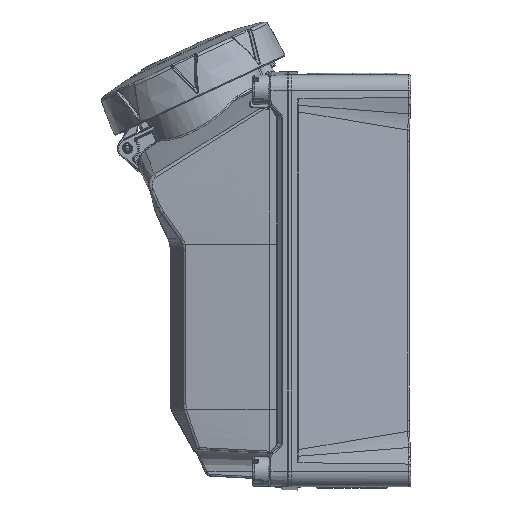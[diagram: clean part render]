
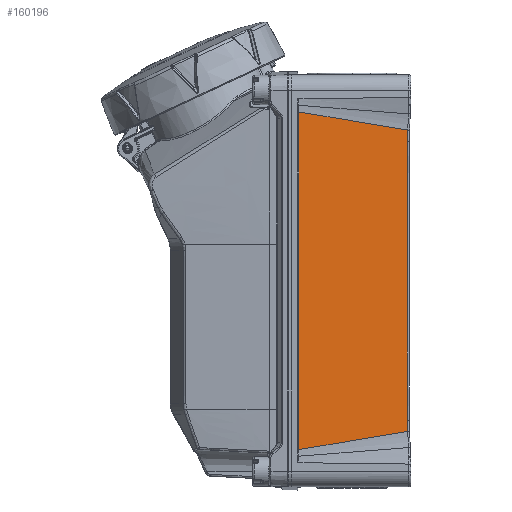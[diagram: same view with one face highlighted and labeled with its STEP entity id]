
A CAD part, left-side view. The second image highlights one B-rep face of the part: STEP entity #160196.
In plain terms, the highlighted free-form (B-spline) face has degree [5, 5] with [6, 6] control points.
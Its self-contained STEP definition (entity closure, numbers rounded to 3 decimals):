
#46207=CARTESIAN_POINT('',(-54.921,0.638,
-82.079));
#46208=CARTESIAN_POINT('',(-55.229,5.784,
-82.813));
#46209=CARTESIAN_POINT('',(-55.815,15.586,
-84.24));
#46210=CARTESIAN_POINT('',(-56.603,28.769,
-86.267));
#46211=CARTESIAN_POINT('',(-57.308,40.559,
-88.217));
#46212=CARTESIAN_POINT('',(-57.933,51.017,
-90.124));
#46213=CARTESIAN_POINT('',(-58.301,57.168,
-91.399));
#46214=CARTESIAN_POINT('',(-58.472,60.031,
-92.044));
#46219=DIRECTION('',(0.,0.,1.));
#46220=VECTOR('',#46219,184.088);
#46221=CARTESIAN_POINT('',(-58.472,60.031,
-92.044));
#46222=LINE('9601',#46221,#46220);
#46226=CARTESIAN_POINT('',(-58.472,60.031,
92.044));
#46227=CARTESIAN_POINT('',(-58.24,56.145,
91.169));
#46228=CARTESIAN_POINT('',(-57.743,47.836,
89.496));
#46229=CARTESIAN_POINT('',(-56.904,33.805,
87.066));
#46230=CARTESIAN_POINT('',(-55.97,18.186,
84.621));
#46231=CARTESIAN_POINT('',(-55.282,6.668,
82.939));
#46232=CARTESIAN_POINT('',(-54.921,0.638,
82.079));
#46237=CARTESIAN_POINT('',(-54.921,0.638,
82.079));
#46238=CARTESIAN_POINT('',(-54.923,0.671,
81.406));
#46239=CARTESIAN_POINT('',(-54.927,0.739,
80.061));
#46240=CARTESIAN_POINT('',(-54.933,0.839,
78.043));
#46241=CARTESIAN_POINT('',(-54.937,0.907,
76.698));
#46242=CARTESIAN_POINT('',(-54.939,0.94,
76.025));
#46247=DIRECTION('',(0.,0.,1.));
#46248=VECTOR('',#46247,152.05);
#46249=CARTESIAN_POINT('',(-54.939,0.94,
-76.025));
#46250=LINE('9659',#46249,#46248);
#46254=CARTESIAN_POINT('',(-54.939,0.94,
-76.025));
#46255=CARTESIAN_POINT('',(-54.937,0.907,
-76.698));
#46256=CARTESIAN_POINT('',(-54.933,0.839,
-78.043));
#46257=CARTESIAN_POINT('',(-54.927,0.739,
-80.061));
#46258=CARTESIAN_POINT('',(-54.923,0.671,
-81.406));
#46259=CARTESIAN_POINT('',(-54.921,0.638,
-82.079));
#83694=VERTEX_POINT('',#46207);
#83695=VERTEX_POINT('',#46214);
#83698=VERTEX_POINT('',#46226);
#83699=VERTEX_POINT('',#46232);
#84503=VERTEX_POINT('',#46242);
#84509=CARTESIAN_POINT('',(-54.939,0.94,
-76.025));
#84510=VERTEX_POINT('',#84509);
#160146=CARTESIAN_POINT('',(-54.883,0.,-86.5));
#160147=CARTESIAN_POINT('',(-55.606,12.1,-87.98));
#160148=CARTESIAN_POINT('',(-56.33,24.2,-89.46));
#160149=CARTESIAN_POINT('',(-57.053,36.3,-90.94));
#160150=CARTESIAN_POINT('',(-57.777,48.4,-92.42));
#160151=CARTESIAN_POINT('',(-58.5,60.5,-93.9));
#160152=CARTESIAN_POINT('',(-54.883,0.,-51.9));
#160153=CARTESIAN_POINT('',(-55.606,12.1,-52.788));
#160154=CARTESIAN_POINT('',(-56.33,24.2,-53.676));
#160155=CARTESIAN_POINT('',(-57.053,36.3,-54.564));
#160156=CARTESIAN_POINT('',(-57.777,48.4,-55.452));
#160157=CARTESIAN_POINT('',(-58.5,60.5,-56.34));
#160158=CARTESIAN_POINT('',(-54.883,0.,-17.3));
#160159=CARTESIAN_POINT('',(-55.606,12.1,-17.596));
#160160=CARTESIAN_POINT('',(-56.33,24.2,-17.892));
#160161=CARTESIAN_POINT('',(-57.053,36.3,-18.188));
#160162=CARTESIAN_POINT('',(-57.777,48.4,-18.484));
#160163=CARTESIAN_POINT('',(-58.5,60.5,-18.78));
#160164=CARTESIAN_POINT('',(-54.883,0.,17.3));
#160165=CARTESIAN_POINT('',(-55.606,12.1,17.596));
#160166=CARTESIAN_POINT('',(-56.33,24.2,17.892));
#160167=CARTESIAN_POINT('',(-57.053,36.3,18.188));
#160168=CARTESIAN_POINT('',(-57.777,48.4,18.484));
#160169=CARTESIAN_POINT('',(-58.5,60.5,18.78));
#160170=CARTESIAN_POINT('',(-54.883,0.,51.9));
#160171=CARTESIAN_POINT('',(-55.606,12.1,52.788));
#160172=CARTESIAN_POINT('',(-56.33,24.2,53.676));
#160173=CARTESIAN_POINT('',(-57.053,36.3,54.564));
#160174=CARTESIAN_POINT('',(-57.777,48.4,55.452));
#160175=CARTESIAN_POINT('',(-58.5,60.5,56.34));
#160176=CARTESIAN_POINT('',(-54.883,0.,86.5));
#160177=CARTESIAN_POINT('',(-55.606,12.1,87.98));
#160178=CARTESIAN_POINT('',(-56.33,24.2,89.46));
#160179=CARTESIAN_POINT('',(-57.053,36.3,90.94));
#160180=CARTESIAN_POINT('',(-57.777,48.4,92.42));
#160181=CARTESIAN_POINT('',(-58.5,60.5,93.9));
#160182=B_SPLINE_SURFACE_WITH_KNOTS('3570',5,5,((#160146,#160147,#160148,
#160149,#160150,#160151),(#160152,#160153,#160154,#160155,#160156,#160157),(
#160158,#160159,#160160,#160161,#160162,#160163),(#160164,#160165,#160166,
#160167,#160168,#160169),(#160170,#160171,#160172,#160173,#160174,#160175),(
#160176,#160177,#160178,#160179,#160180,#160181)),.UNSPECIFIED.,.F.,.F.,.F.,(6,
6),(6,6),(0.,1.),(0.,1.),.UNSPECIFIED.);
#160183=ORIENTED_EDGE('8641',*,*,#160129,.T.);
#160185=ORIENTED_EDGE('9601',*,*,#160184,.T.);
#160187=ORIENTED_EDGE('8643',*,*,#160186,.T.);
#160189=ORIENTED_EDGE('9653',*,*,#160188,.T.);
#160191=ORIENTED_EDGE('9659',*,*,#160190,.F.);
#160193=ORIENTED_EDGE('9666',*,*,#160192,.T.);
#160194=EDGE_LOOP('3570',(#160183,#160185,#160187,#160189,#160191,#160193));
#160195=FACE_OUTER_BOUND('3570',#160194,.F.);
#46215=B_SPLINE_CURVE_WITH_KNOTS('8641',3,(#46207,#46208,#46209,#46210,#46211,
#46212,#46213,#46214),.UNSPECIFIED.,.F.,.F.,(4,1,1,1,1,4),(0.,0.2,0.4,
0.6,0.8,1.),.UNSPECIFIED.);
#46233=B_SPLINE_CURVE_WITH_KNOTS('8643',3,(#46226,#46227,#46228,#46229,#46230,
#46231,#46232),.UNSPECIFIED.,.F.,.F.,(4,1,1,1,4),(0.,0.25,0.5,0.75,
1.),.UNSPECIFIED.);
#46243=B_SPLINE_CURVE_WITH_KNOTS('9653',3,(#46237,#46238,#46239,#46240,#46241,
#46242),.UNSPECIFIED.,.F.,.F.,(4,1,1,4),(0.,0.333,
0.667,1.),.UNSPECIFIED.);
#46260=B_SPLINE_CURVE_WITH_KNOTS('9666',3,(#46254,#46255,#46256,#46257,#46258,
#46259),.UNSPECIFIED.,.F.,.F.,(4,1,1,4),(0.,0.333,
0.667,1.),.UNSPECIFIED.);
#160129=EDGE_CURVE('8641',#83694,#83695,#46215,.T.);
#160184=EDGE_CURVE('9601',#83695,#83698,#46222,.T.);
#160186=EDGE_CURVE('8643',#83698,#83699,#46233,.T.);
#160188=EDGE_CURVE('9653',#83699,#84503,#46243,.T.);
#160190=EDGE_CURVE('9659',#84510,#84503,#46250,.T.);
#160192=EDGE_CURVE('9666',#84510,#83694,#46260,.T.);
#160196=ADVANCED_FACE('3570',(#160195),#160182,.T.);
